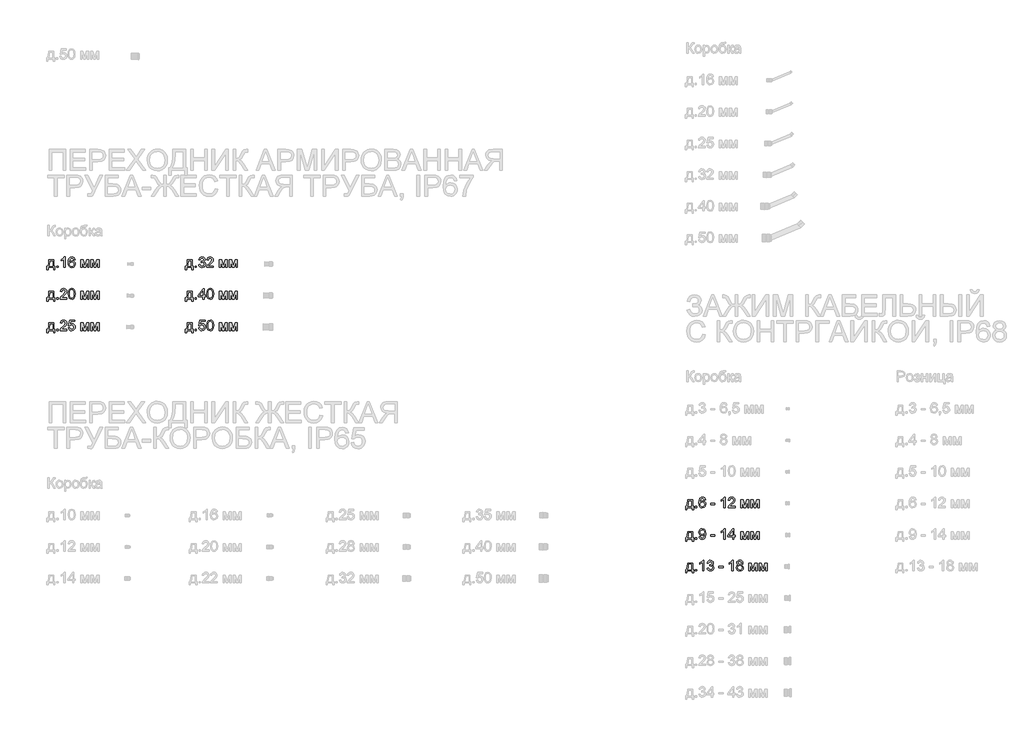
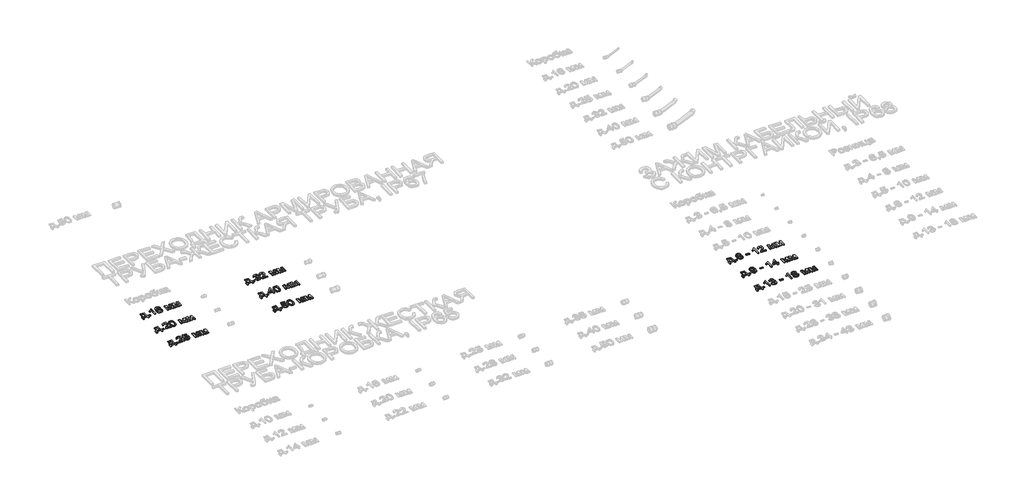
# One storey, part 57 of 98: 9 proxies.
"""IFC4 building model written with IfcOpenShell, lengths in millimetres."""

from ifc_helpers import new_model, si_unit, origin, origin_with_axes, place, context, project, spatial, polyline, outline, extrude, element, save

model = new_model("IFC4")

# Units and contexts
model_context = context("Model", 3, world=origin())
ifc_project = project(units=[si_unit("LENGTHUNIT", "METRE", prefix="MILLI")], contexts=[model_context])

# Site, building, storey
site = spatial("IfcSite", under=ifc_project)
building = spatial("IfcBuilding", under=site)
storey = spatial("IfcBuildingStorey", under=building, Name="Этаж 01", Elevation=0.0)

# Proxies
placement = place(None, origin())
element("IfcBuildingElementProxy", 1, Name="100", ObjectType="100", at=placement, inside=storey, context=model_context, shape_type="SweptSolid", body=[
    extrude(outline(polyline([(8359.1567674, -26065.363208), (8406.2456628, -26065.363208), (8406.2456628, -26126.578772), (8415.6634419, -26126.578772), (8415.6634419, -26159.5409987), (8403.1064031, -26159.5409987), (8403.1064031, -26139.1358107), (8351.3086182, -26139.1358107), (8351.3086182, -26159.5409987), (8338.7515794, -26159.5409987), (8338.7515794, -26126.578772), (8346.5997287, -26126.578772), (8356.2995506, -26102.6296541), (8359.1567674, -26065.363208)]), holes=[polyline([(8370.1441763, -26077.9202467), (8367.2011204, -26106.5292032), (8360.7263973, -26126.578772), (8393.688624, -26126.578772), (8393.688624, -26077.9202467), (8370.1441763, -26077.9202467)])]), origin_with_axes(), (0.0, 0.0, 1.0), 10.0),
    extrude(outline(polyline([(8432.9293702, -26139.1358107), (8432.9293702, -26126.578772), (8445.486409, -26126.578772), (8445.486409, -26139.1358107), (8432.9293702, -26139.1358107)])), origin_with_axes(), (0.0, 0.0, 1.0), 10.0),
    extrude(outline(polyline([(8512.9804923, -26139.1358107), (8500.4234536, -26139.1358107), (8500.4234536, -26060.8505222), (8488.5286024, -26069.3240708), (8475.309376, -26075.6639038), (8475.309376, -26063.7935781), (8493.7157385, -26052.0458797), (8504.8870884, -26038.6795006), (8512.9804923, -26038.6795006), (8512.9804923, -26139.1358107)])), origin_with_axes(), (0.0, 0.0, 1.0), 10.0),
    extrude(outline(polyline([(8607.1582831, -26065.363208), (8594.6012443, -26066.9328378), (8589.8433039, -26056.4604637), (8577.2617396, -26051.2365394), (8565.9309742, -26054.2776972), (8557.3593237, -26065.6943018), (8553.7908683, -26088.0737898), (8564.8641164, -26078.0551368), (8578.5861148, -26074.780987), (8590.1866604, -26077.0189359), (8599.9232705, -26083.7327823), (8606.5267523, -26093.9905586), (8608.7279129, -26106.860297), (8604.5831091, -26124.187539), (8593.1787673, -26136.4502722), (8576.7221794, -26140.7054406), (8562.4759491, -26137.885012), (8551.1298552, -26129.4237261), (8543.707836, -26114.4877171), (8541.2338296, -26092.2431191), (8543.9806818, -26067.2332748), (8552.2212385, -26050.1328934), (8563.4722962, -26041.5428488), (8578.0465546, -26038.6795006), (8589.0646203, -26040.4514655), (8597.8876568, -26045.7673604), (8604.0680743, -26054.2102522), (8607.1582831, -26065.363208)]), holes=[polyline([(8553.7908683, -26106.6640933), (8556.6971361, -26117.5411376), (8564.422658, -26125.4383378), (8575.7411607, -26128.1484018), (8584.0277027, -26126.7443189), (8590.5422797, -26122.53207), (8594.7637255, -26115.9101941), (8596.1708742, -26107.27723), (8594.7821196, -26098.990688), (8590.6158561, -26092.6723147), (8583.9909145, -26088.6715981), (8575.2261259, -26087.3380258), (8560.0325995, -26092.6723147), (8555.3513011, -26098.8374039), (8553.7908683, -26106.6640933)])]), origin_with_axes(), (0.0, 0.0, 1.0), 10.0),
    extrude(outline(polyline([(8662.0953277, -26065.363208), (8683.7022636, -26065.363208), (8700.3550552, -26124.4205309), (8718.3076966, -26065.363208), (8739.0071902, -26065.363208), (8739.0071902, -26139.1358107), (8726.4501514, -26139.1358107), (8726.4501514, -26079.7351313), (8708.3994082, -26139.1358107), (8691.9182948, -26139.1358107), (8674.6523665, -26076.8901772), (8674.6523665, -26139.1358107), (8662.0953277, -26139.1358107), (8662.0953277, -26065.363208)])), origin_with_axes(), (0.0, 0.0, 1.0), 10.0),
    extrude(outline(polyline([(8757.8427483, -26065.363208), (8779.4496842, -26065.363208), (8796.1024758, -26124.4205309), (8814.0551172, -26065.363208), (8834.7546108, -26065.363208), (8834.7546108, -26139.1358107), (8822.197572, -26139.1358107), (8822.197572, -26079.7351313), (8804.1468288, -26139.1358107), (8787.6657154, -26139.1358107), (8770.3997871, -26076.8901772), (8770.3997871, -26139.1358107), (8757.8427483, -26139.1358107), (8757.8427483, -26065.363208)])), origin_with_axes(), (0.0, 0.0, 1.0), 10.0),
])
element("IfcBuildingElementProxy", 2, Name="100", ObjectType="100", at=placement, inside=storey, context=model_context, shape_type="SweptSolid", body=[
    extrude(outline(polyline([(8359.1567674, -26365.363208), (8406.2456628, -26365.363208), (8406.2456628, -26426.578772), (8415.6634419, -26426.578772), (8415.6634419, -26459.5409987), (8403.1064031, -26459.5409987), (8403.1064031, -26439.1358107), (8351.3086182, -26439.1358107), (8351.3086182, -26459.5409987), (8338.7515794, -26459.5409987), (8338.7515794, -26426.578772), (8346.5997287, -26426.578772), (8356.2995506, -26402.6296541), (8359.1567674, -26365.363208)]), holes=[polyline([(8370.1441763, -26377.9202467), (8367.2011204, -26406.5292032), (8360.7263973, -26426.578772), (8393.688624, -26426.578772), (8393.688624, -26377.9202467), (8370.1441763, -26377.9202467)])]), origin_with_axes(), (0.0, 0.0, 1.0), 10.0),
    extrude(outline(polyline([(8432.9293702, -26439.1358107), (8432.9293702, -26426.578772), (8445.486409, -26426.578772), (8445.486409, -26439.1358107), (8432.9293702, -26439.1358107)])), origin_with_axes(), (0.0, 0.0, 1.0), 10.0),
    extrude(outline(polyline([(8530.2464206, -26426.578772), (8530.2464206, -26439.1358107), (8464.3219671, -26439.1358107), (8465.6708678, -26430.4783211), (8473.2982878, -26417.1487302), (8489.0191117, -26402.5928659), (8510.699624, -26381.6726431), (8516.119752, -26367.4478726), (8511.0061923, -26355.9331662), (8497.6520759, -26351.2365394), (8483.7338737, -26355.8228016), (8478.4486357, -26368.5024677), (8465.891597, -26366.9328378), (8468.9358205, -26354.7866006), (8475.5178425, -26345.9145132), (8485.2943065, -26340.4882537), (8497.921856, -26338.6795006), (8510.641376, -26340.6905888), (8520.3994459, -26346.7238536), (8526.6074546, -26355.7369624), (8528.6767908, -26366.6875832), (8526.4449734, -26378.5946971), (8519.0260198, -26390.9064812), (8501.0365902, -26408.1110958), (8486.5910905, -26420.189888), (8480.9257078, -26426.578772), (8530.2464206, -26426.578772)])), origin_with_axes(), (0.0, 0.0, 1.0), 10.0),
    extrude(outline(polyline([(8542.8034594, -26389.7169961), (8546.4945421, -26360.813734), (8557.4574256, -26344.1486796), (8575.7656862, -26338.6795006), (8590.4319151, -26341.9168621), (8600.5609327, -26351.2488021), (8606.4470446, -26366.1112347), (8608.7279129, -26389.7169961), (8605.0736185, -26418.4976308), (8594.1475232, -26435.1994734), (8585.9161636, -26439.3289488), (8575.7656862, -26440.7054406), (8562.7181381, -26438.3142076), (8552.8098497, -26431.1405087), (8545.305057, -26414.1504919), (8542.8034594, -26389.7169961)]), holes=[polyline([(8555.3604982, -26389.6924706), (8556.8320262, -26409.444668), (8561.2466101, -26420.876601), (8567.8194351, -26426.3304516), (8575.7656862, -26428.1484018), (8583.7119373, -26426.3243203), (8590.2847623, -26420.8520756), (8594.6993462, -26409.4140112), (8596.1708742, -26389.6924706), (8594.7483971, -26370.3847972), (8590.480966, -26358.8639594), (8583.9204037, -26353.1433944), (8575.6185334, -26351.2365394), (8567.7581214, -26352.9165338), (8561.4428138, -26357.9565171), (8556.8810771, -26370.1947248), (8555.3604982, -26389.6924706)])]), origin_with_axes(), (0.0, 0.0, 1.0), 10.0),
    extrude(outline(polyline([(8662.0953277, -26365.363208), (8683.7022636, -26365.363208), (8700.3550552, -26424.4205309), (8718.3076966, -26365.363208), (8739.0071902, -26365.363208), (8739.0071902, -26439.1358107), (8726.4501514, -26439.1358107), (8726.4501514, -26379.7351313), (8708.3994082, -26439.1358107), (8691.9182948, -26439.1358107), (8674.6523665, -26376.8901772), (8674.6523665, -26439.1358107), (8662.0953277, -26439.1358107), (8662.0953277, -26365.363208)])), origin_with_axes(), (0.0, 0.0, 1.0), 10.0),
    extrude(outline(polyline([(8757.8427483, -26365.363208), (8779.4496842, -26365.363208), (8796.1024758, -26424.4205309), (8814.0551172, -26365.363208), (8834.7546108, -26365.363208), (8834.7546108, -26439.1358107), (8822.197572, -26439.1358107), (8822.197572, -26379.7351313), (8804.1468288, -26439.1358107), (8787.6657154, -26439.1358107), (8770.3997871, -26376.8901772), (8770.3997871, -26439.1358107), (8757.8427483, -26439.1358107), (8757.8427483, -26365.363208)])), origin_with_axes(), (0.0, 0.0, 1.0), 10.0),
])
element("IfcBuildingElementProxy", 3, Name="100", ObjectType="100", at=placement, inside=storey, context=model_context, shape_type="SweptSolid", body=[
    extrude(outline(polyline([(8359.1567674, -26665.363208), (8406.2456628, -26665.363208), (8406.2456628, -26726.578772), (8415.6634419, -26726.578772), (8415.6634419, -26759.5409987), (8403.1064031, -26759.5409987), (8403.1064031, -26739.1358107), (8351.3086182, -26739.1358107), (8351.3086182, -26759.5409987), (8338.7515794, -26759.5409987), (8338.7515794, -26726.578772), (8346.5997287, -26726.578772), (8356.2995506, -26702.6296541), (8359.1567674, -26665.363208)]), holes=[polyline([(8370.1441763, -26677.9202467), (8367.2011204, -26706.5292032), (8360.7263973, -26726.578772), (8393.688624, -26726.578772), (8393.688624, -26677.9202467), (8370.1441763, -26677.9202467)])]), origin_with_axes(), (0.0, 0.0, 1.0), 10.0),
    extrude(outline(polyline([(8432.9293702, -26739.1358107), (8432.9293702, -26726.578772), (8445.486409, -26726.578772), (8445.486409, -26739.1358107), (8432.9293702, -26739.1358107)])), origin_with_axes(), (0.0, 0.0, 1.0), 10.0),
    extrude(outline(polyline([(8530.2464206, -26726.578772), (8530.2464206, -26739.1358107), (8464.3219671, -26739.1358107), (8465.6708678, -26730.4783211), (8473.2982878, -26717.1487302), (8489.0191117, -26702.5928659), (8510.699624, -26681.6726431), (8516.119752, -26667.4478726), (8511.0061923, -26655.9331662), (8497.6520759, -26651.2365394), (8483.7338737, -26655.8228016), (8478.4486357, -26668.5024677), (8465.891597, -26666.9328378), (8468.9358205, -26654.7866006), (8475.5178425, -26645.9145132), (8485.2943065, -26640.4882537), (8497.921856, -26638.6795006), (8510.641376, -26640.6905888), (8520.3994459, -26646.7238536), (8526.6074546, -26655.7369624), (8528.6767908, -26666.6875832), (8526.4449734, -26678.5946971), (8519.0260198, -26690.9064812), (8501.0365902, -26708.1110958), (8486.5910905, -26720.189888), (8480.9257078, -26726.578772), (8530.2464206, -26726.578772)])), origin_with_axes(), (0.0, 0.0, 1.0), 10.0),
    extrude(outline(polyline([(8542.8034594, -26712.4521034), (8555.3604982, -26710.8824735), (8561.6880685, -26723.819657), (8574.809193, -26728.1484018), (8583.8100391, -26726.6431513), (8590.5545424, -26722.1273998), (8594.7667912, -26715.1223135), (8596.1708742, -26706.1490585), (8590.9101616, -26691.237575), (8584.3036142, -26687.1356907), (8575.0053967, -26685.768396), (8563.9811996, -26687.9511625), (8556.930128, -26693.6165452), (8544.3730893, -26692.0469154), (8555.3604982, -26640.2491304), (8604.0190234, -26640.2491304), (8604.0190234, -26652.8061692), (8565.5140412, -26652.8061692), (8560.1429641, -26680.4708952), (8569.1131534, -26675.0262417), (8578.5125384, -26673.2113572), (8590.2449084, -26675.4615687), (8599.9845842, -26682.2122034), (8606.5420808, -26692.5006365), (8608.7279129, -26705.3642436), (8606.7597443, -26717.9212823), (8600.8552383, -26728.6634366), (8589.5489983, -26737.6949396), (8574.7601421, -26740.7054406), (8562.4268982, -26738.7709944), (8552.6013832, -26732.967656), (8545.866077, -26723.9698755), (8542.8034594, -26712.4521034)])), origin_with_axes(), (0.0, 0.0, 1.0), 10.0),
    extrude(outline(polyline([(8662.0953277, -26665.363208), (8683.7022636, -26665.363208), (8700.3550552, -26724.4205309), (8718.3076966, -26665.363208), (8739.0071902, -26665.363208), (8739.0071902, -26739.1358107), (8726.4501514, -26739.1358107), (8726.4501514, -26679.7351313), (8708.3994082, -26739.1358107), (8691.9182948, -26739.1358107), (8674.6523665, -26676.8901772), (8674.6523665, -26739.1358107), (8662.0953277, -26739.1358107), (8662.0953277, -26665.363208)])), origin_with_axes(), (0.0, 0.0, 1.0), 10.0),
    extrude(outline(polyline([(8757.8427483, -26665.363208), (8779.4496842, -26665.363208), (8796.1024758, -26724.4205309), (8814.0551172, -26665.363208), (8834.7546108, -26665.363208), (8834.7546108, -26739.1358107), (8822.197572, -26739.1358107), (8822.197572, -26679.7351313), (8804.1468288, -26739.1358107), (8787.6657154, -26739.1358107), (8770.3997871, -26676.8901772), (8770.3997871, -26739.1358107), (8757.8427483, -26739.1358107), (8757.8427483, -26665.363208)])), origin_with_axes(), (0.0, 0.0, 1.0), 10.0),
])
element("IfcBuildingElementProxy", 4, Name="100", ObjectType="100", at=placement, inside=storey, context=model_context, shape_type="SweptSolid", body=[
    extrude(outline(polyline([(9674.8117307, -26065.363208), (9721.9006261, -26065.363208), (9721.9006261, -26126.578772), (9731.3184052, -26126.578772), (9731.3184052, -26159.5409987), (9718.7613664, -26159.5409987), (9718.7613664, -26139.1358107), (9666.9635815, -26139.1358107), (9666.9635815, -26159.5409987), (9654.4065427, -26159.5409987), (9654.4065427, -26126.578772), (9662.2546919, -26126.578772), (9671.9545139, -26102.6296541), (9674.8117307, -26065.363208)]), holes=[polyline([(9685.7991396, -26077.9202467), (9682.8560837, -26106.5292032), (9676.3813606, -26126.578772), (9709.3435873, -26126.578772), (9709.3435873, -26077.9202467), (9685.7991396, -26077.9202467)])]), origin_with_axes(), (0.0, 0.0, 1.0), 10.0),
    extrude(outline(polyline([(9748.5843335, -26139.1358107), (9748.5843335, -26126.578772), (9761.1413722, -26126.578772), (9761.1413722, -26139.1358107), (9748.5843335, -26139.1358107)])), origin_with_axes(), (0.0, 0.0, 1.0), 10.0),
    extrude(outline(polyline([(9781.5465602, -26112.4521034), (9794.103599, -26110.8824735), (9801.0320433, -26124.1016999), (9813.9937522, -26128.1484018), (9822.6021909, -26126.7565816), (9829.2485923, -26122.581121), (9834.913975, -26108.7978089), (9829.2976432, -26095.8115744), (9815.0238218, -26090.6734892), (9806.2191794, -26092.0469154), (9807.617131, -26079.4898766), (9809.6282192, -26079.6370294), (9823.8775152, -26076.0317858), (9828.6231929, -26071.4577864), (9830.2050855, -26064.946275), (9825.6188233, -26055.1238258), (9813.7975485, -26051.2365394), (9801.8291209, -26055.160614), (9795.6732289, -26066.9328378), (9783.1161901, -26065.363208), (9786.8134041, -26054.0876248), (9793.3923605, -26045.6692585), (9802.3932066, -26040.4269401), (9813.3560901, -26038.6795006), (9828.5005656, -26042.1253286), (9839.095567, -26051.5431077), (9842.7621242, -26064.2105111), (9839.279508, -26075.7865312), (9828.9788122, -26084.1006643), (9842.6640224, -26092.6845775), (9847.4710138, -26109.0185381), (9845.0675181, -26121.2567458), (9837.857031, -26131.4838652), (9826.9738553, -26138.4000467), (9813.5522938, -26140.7054406), (9801.412188, -26138.7372719), (9791.528425, -26132.8327659), (9784.6551631, -26123.8012629), (9781.5465602, -26112.4521034)])), origin_with_axes(), (0.0, 0.0, 1.0), 10.0),
    extrude(outline(polyline([(9922.8132464, -26126.578772), (9922.8132464, -26139.1358107), (9856.8887929, -26139.1358107), (9858.2376935, -26130.4783211), (9865.8651135, -26117.1487302), (9881.5859375, -26102.5928659), (9903.2664497, -26081.6726431), (9908.6865778, -26067.4478726), (9903.573018, -26055.9331662), (9890.2189016, -26051.2365394), (9876.3006995, -26055.8228016), (9871.0154615, -26068.5024677), (9858.4584227, -26066.9328378), (9861.5026462, -26054.7866006), (9868.0846682, -26045.9145132), (9877.8611323, -26040.4882537), (9890.4886817, -26038.6795006), (9903.2082017, -26040.6905888), (9912.9662717, -26046.7238536), (9919.1742803, -26055.7369624), (9921.2436165, -26066.6875832), (9919.0117991, -26078.5946971), (9911.5928455, -26090.9064812), (9893.603416, -26108.1110958), (9879.1579163, -26120.189888), (9873.4925336, -26126.578772), (9922.8132464, -26126.578772)])), origin_with_axes(), (0.0, 0.0, 1.0), 10.0),
    extrude(outline(polyline([(9977.750291, -26065.363208), (9999.3572269, -26065.363208), (10016.0100185, -26124.4205309), (10033.9626599, -26065.363208), (10054.6621535, -26065.363208), (10054.6621535, -26139.1358107), (10042.1051147, -26139.1358107), (10042.1051147, -26079.7351313), (10024.0543715, -26139.1358107), (10007.5732581, -26139.1358107), (9990.3073298, -26076.8901772), (9990.3073298, -26139.1358107), (9977.750291, -26139.1358107), (9977.750291, -26065.363208)])), origin_with_axes(), (0.0, 0.0, 1.0), 10.0),
    extrude(outline(polyline([(10073.4977116, -26065.363208), (10095.1046475, -26065.363208), (10111.7574391, -26124.4205309), (10129.7100805, -26065.363208), (10150.4095741, -26065.363208), (10150.4095741, -26139.1358107), (10137.8525353, -26139.1358107), (10137.8525353, -26079.7351313), (10119.8017921, -26139.1358107), (10103.3206787, -26139.1358107), (10086.0547504, -26076.8901772), (10086.0547504, -26139.1358107), (10073.4977116, -26139.1358107), (10073.4977116, -26065.363208)])), origin_with_axes(), (0.0, 0.0, 1.0), 10.0),
])
element("IfcBuildingElementProxy", 5, Name="100", ObjectType="100", at=placement, inside=storey, context=model_context, shape_type="SweptSolid", body=[
    extrude(outline(polyline([(9674.8117307, -26365.363208), (9721.9006261, -26365.363208), (9721.9006261, -26426.578772), (9731.3184052, -26426.578772), (9731.3184052, -26459.5409987), (9718.7613664, -26459.5409987), (9718.7613664, -26439.1358107), (9666.9635815, -26439.1358107), (9666.9635815, -26459.5409987), (9654.4065427, -26459.5409987), (9654.4065427, -26426.578772), (9662.2546919, -26426.578772), (9671.9545139, -26402.6296541), (9674.8117307, -26365.363208)]), holes=[polyline([(9685.7991396, -26377.9202467), (9682.8560837, -26406.5292032), (9676.3813606, -26426.578772), (9709.3435873, -26426.578772), (9709.3435873, -26377.9202467), (9685.7991396, -26377.9202467)])]), origin_with_axes(), (0.0, 0.0, 1.0), 10.0),
    extrude(outline(polyline([(9748.5843335, -26439.1358107), (9748.5843335, -26426.578772), (9761.1413722, -26426.578772), (9761.1413722, -26439.1358107), (9748.5843335, -26439.1358107)])), origin_with_axes(), (0.0, 0.0, 1.0), 10.0),
    extrude(outline(polyline([(9822.3569362, -26439.1358107), (9822.3569362, -26415.591363), (9776.8376707, -26415.591363), (9776.8376707, -26403.0343243), (9825.4961959, -26340.2491304), (9834.913975, -26340.2491304), (9834.913975, -26403.0343243), (9847.4710138, -26403.0343243), (9847.4710138, -26415.591363), (9834.913975, -26415.591363), (9834.913975, -26439.1358107), (9822.3569362, -26439.1358107)]), holes=[polyline([(9822.3569362, -26403.0343243), (9822.3569362, -26364.2350365), (9792.2887145, -26403.0343243), (9822.3569362, -26403.0343243)])]), origin_with_axes(), (0.0, 0.0, 1.0), 10.0),
    extrude(outline(polyline([(9858.4584227, -26389.7169961), (9862.1495054, -26360.813734), (9873.1123888, -26344.1486796), (9891.4206495, -26338.6795006), (9906.0868783, -26341.9168621), (9916.2158959, -26351.2488021), (9922.1020079, -26366.1112347), (9924.3828762, -26389.7169961), (9920.7285818, -26418.4976308), (9909.8024865, -26435.1994734), (9901.5711269, -26439.3289488), (9891.4206495, -26440.7054406), (9878.3731014, -26438.3142076), (9868.464813, -26431.1405087), (9860.9600203, -26414.1504919), (9858.4584227, -26389.7169961)]), holes=[polyline([(9871.0154615, -26389.6924706), (9872.4869895, -26409.444668), (9876.9015734, -26420.876601), (9883.4743984, -26426.3304516), (9891.4206495, -26428.1484018), (9899.3669006, -26426.3243203), (9905.9397255, -26420.8520756), (9910.3543095, -26409.4140112), (9911.8258375, -26389.6924706), (9910.4033604, -26370.3847972), (9906.1359293, -26358.8639594), (9899.575367, -26353.1433944), (9891.2734967, -26351.2365394), (9883.4130847, -26352.9165338), (9877.0977771, -26357.9565171), (9872.5360404, -26370.1947248), (9871.0154615, -26389.6924706)])]), origin_with_axes(), (0.0, 0.0, 1.0), 10.0),
    extrude(outline(polyline([(9977.750291, -26365.363208), (9999.3572269, -26365.363208), (10016.0100185, -26424.4205309), (10033.9626599, -26365.363208), (10054.6621535, -26365.363208), (10054.6621535, -26439.1358107), (10042.1051147, -26439.1358107), (10042.1051147, -26379.7351313), (10024.0543715, -26439.1358107), (10007.5732581, -26439.1358107), (9990.3073298, -26376.8901772), (9990.3073298, -26439.1358107), (9977.750291, -26439.1358107), (9977.750291, -26365.363208)])), origin_with_axes(), (0.0, 0.0, 1.0), 10.0),
    extrude(outline(polyline([(10073.4977116, -26365.363208), (10095.1046475, -26365.363208), (10111.7574391, -26424.4205309), (10129.7100805, -26365.363208), (10150.4095741, -26365.363208), (10150.4095741, -26439.1358107), (10137.8525353, -26439.1358107), (10137.8525353, -26379.7351313), (10119.8017921, -26439.1358107), (10103.3206787, -26439.1358107), (10086.0547504, -26376.8901772), (10086.0547504, -26439.1358107), (10073.4977116, -26439.1358107), (10073.4977116, -26365.363208)])), origin_with_axes(), (0.0, 0.0, 1.0), 10.0),
])
element("IfcBuildingElementProxy", 6, Name="100", ObjectType="100", at=placement, inside=storey, context=model_context, shape_type="SweptSolid", body=[
    extrude(outline(polyline([(9674.8117307, -26665.363208), (9721.9006261, -26665.363208), (9721.9006261, -26726.578772), (9731.3184052, -26726.578772), (9731.3184052, -26759.5409987), (9718.7613664, -26759.5409987), (9718.7613664, -26739.1358107), (9666.9635815, -26739.1358107), (9666.9635815, -26759.5409987), (9654.4065427, -26759.5409987), (9654.4065427, -26726.578772), (9662.2546919, -26726.578772), (9671.9545139, -26702.6296541), (9674.8117307, -26665.363208)]), holes=[polyline([(9685.7991396, -26677.9202467), (9682.8560837, -26706.5292032), (9676.3813606, -26726.578772), (9709.3435873, -26726.578772), (9709.3435873, -26677.9202467), (9685.7991396, -26677.9202467)])]), origin_with_axes(), (0.0, 0.0, 1.0), 10.0),
    extrude(outline(polyline([(9748.5843335, -26739.1358107), (9748.5843335, -26726.578772), (9761.1413722, -26726.578772), (9761.1413722, -26739.1358107), (9748.5843335, -26739.1358107)])), origin_with_axes(), (0.0, 0.0, 1.0), 10.0),
    extrude(outline(polyline([(9781.5465602, -26712.4521034), (9794.103599, -26710.8824735), (9800.4311693, -26723.819657), (9813.5522938, -26728.1484018), (9822.55314, -26726.6431513), (9829.2976432, -26722.1273998), (9833.5098921, -26715.1223135), (9834.913975, -26706.1490585), (9829.6532625, -26691.237575), (9823.046715, -26687.1356907), (9813.7484976, -26685.768396), (9802.7243004, -26687.9511625), (9795.6732289, -26693.6165452), (9783.1161901, -26692.0469154), (9794.103599, -26640.2491304), (9842.7621242, -26640.2491304), (9842.7621242, -26652.8061692), (9804.2571421, -26652.8061692), (9798.8860649, -26680.4708952), (9807.8562543, -26675.0262417), (9817.2556392, -26673.2113572), (9828.9880092, -26675.4615687), (9838.727685, -26682.2122034), (9845.2851816, -26692.5006365), (9847.4710138, -26705.3642436), (9845.5028451, -26717.9212823), (9839.5983391, -26728.6634366), (9828.2920991, -26737.6949396), (9813.5032429, -26740.7054406), (9801.169999, -26738.7709944), (9791.344484, -26732.967656), (9784.6091779, -26723.9698755), (9781.5465602, -26712.4521034)])), origin_with_axes(), (0.0, 0.0, 1.0), 10.0),
    extrude(outline(polyline([(9858.4584227, -26689.7169961), (9862.1495054, -26660.813734), (9873.1123888, -26644.1486796), (9891.4206495, -26638.6795006), (9906.0868783, -26641.9168621), (9916.2158959, -26651.2488021), (9922.1020079, -26666.1112347), (9924.3828762, -26689.7169961), (9920.7285818, -26718.4976308), (9909.8024865, -26735.1994734), (9901.5711269, -26739.3289488), (9891.4206495, -26740.7054406), (9878.3731014, -26738.3142076), (9868.464813, -26731.1405087), (9860.9600203, -26714.1504919), (9858.4584227, -26689.7169961)]), holes=[polyline([(9871.0154615, -26689.6924706), (9872.4869895, -26709.444668), (9876.9015734, -26720.876601), (9883.4743984, -26726.3304516), (9891.4206495, -26728.1484018), (9899.3669006, -26726.3243203), (9905.9397255, -26720.8520756), (9910.3543095, -26709.4140112), (9911.8258375, -26689.6924706), (9910.4033604, -26670.3847972), (9906.1359293, -26658.8639594), (9899.575367, -26653.1433944), (9891.2734967, -26651.2365394), (9883.4130847, -26652.9165338), (9877.0977771, -26657.9565171), (9872.5360404, -26670.1947248), (9871.0154615, -26689.6924706)])]), origin_with_axes(), (0.0, 0.0, 1.0), 10.0),
    extrude(outline(polyline([(9977.750291, -26665.363208), (9999.3572269, -26665.363208), (10016.0100185, -26724.4205309), (10033.9626599, -26665.363208), (10054.6621535, -26665.363208), (10054.6621535, -26739.1358107), (10042.1051147, -26739.1358107), (10042.1051147, -26679.7351313), (10024.0543715, -26739.1358107), (10007.5732581, -26739.1358107), (9990.3073298, -26676.8901772), (9990.3073298, -26739.1358107), (9977.750291, -26739.1358107), (9977.750291, -26665.363208)])), origin_with_axes(), (0.0, 0.0, 1.0), 10.0),
    extrude(outline(polyline([(10073.4977116, -26665.363208), (10095.1046475, -26665.363208), (10111.7574391, -26724.4205309), (10129.7100805, -26665.363208), (10150.4095741, -26665.363208), (10150.4095741, -26739.1358107), (10137.8525353, -26739.1358107), (10137.8525353, -26679.7351313), (10119.8017921, -26739.1358107), (10103.3206787, -26739.1358107), (10086.0547504, -26676.8901772), (10086.0547504, -26739.1358107), (10073.4977116, -26739.1358107), (10073.4977116, -26665.363208)])), origin_with_axes(), (0.0, 0.0, 1.0), 10.0),
])
element("IfcBuildingElementProxy", 7, Name="100", ObjectType="100", at=placement, inside=storey, context=model_context, shape_type="SweptSolid", body=[
    extrude(outline(polyline([(14431.7338321, -28649.6891994), (14478.8227275, -28649.6891994), (14478.8227275, -28710.9047634), (14488.2405066, -28710.9047634), (14488.2405066, -28743.8669901), (14475.6834678, -28743.8669901), (14475.6834678, -28723.4618021), (14423.8856829, -28723.4618021), (14423.8856829, -28743.8669901), (14411.3286441, -28743.8669901), (14411.3286441, -28710.9047634), (14419.1767934, -28710.9047634), (14428.8766153, -28686.9556455), (14431.7338321, -28649.6891994)]), holes=[polyline([(14442.721241, -28662.2462382), (14439.7781851, -28690.8551946), (14433.303462, -28710.9047634), (14466.2656887, -28710.9047634), (14466.2656887, -28662.2462382), (14442.721241, -28662.2462382)])]), origin_with_axes(), (0.0, 0.0, 1.0), 10.0),
    extrude(outline(polyline([(14505.5064349, -28723.4618021), (14505.5064349, -28710.9047634), (14518.0634737, -28710.9047634), (14518.0634737, -28723.4618021), (14505.5064349, -28723.4618021)])), origin_with_axes(), (0.0, 0.0, 1.0), 10.0),
    extrude(outline(polyline([(14540.0382915, -28698.3477246), (14552.5953303, -28696.7780948), (14558.2361875, -28708.7587851), (14568.9292909, -28712.4743932), (14579.0950967, -28710.0831603), (14585.9867527, -28703.6942763), (14590.0947683, -28692.7804438), (14591.9096528, -28678.2123167), (14591.8360764, -28675.7597701), (14581.792898, -28685.275651), (14568.0218486, -28688.9299455), (14556.5715215, -28686.6981281), (14547.0403121, -28680.0026758), (14540.6115743, -28669.6590604), (14538.4686617, -28656.4827536), (14540.7158075, -28642.8711197), (14547.4572451, -28632.2025419), (14557.583197, -28625.3047545), (14569.9838859, -28623.005492), (14587.8752136, -28628.2539418), (14600.1869977, -28643.2144763), (14604.3931152, -28671.3206607), (14600.1992604, -28701.8180781), (14594.9845332, -28711.80914), (14587.7280608, -28719.0962691), (14578.7425431, -28723.5476413), (14568.3406797, -28725.031432), (14557.6046568, -28723.2809268), (14549.0391377, -28718.0294114), (14543.0487925, -28709.6079793), (14540.0382915, -28698.3477246)]), holes=[polyline([(14591.8360764, -28656.188448), (14590.4810444, -28647.6781111), (14586.4159484, -28641.1298116), (14580.1067721, -28636.954351), (14572.0194996, -28635.5625308), (14563.6317901, -28637.0616499), (14556.9118123, -28641.5590073), (14552.4972284, -28648.4414663), (14551.0257004, -28657.0958902), (14552.4175206, -28664.8551346), (14556.5929813, -28671.0140924), (14563.1474122, -28675.0332032), (14571.6761431, -28676.3729068), (14586.158431, -28671.0140924), (14590.4166651, -28664.6282741), (14591.8360764, -28656.188448)])]), origin_with_axes(), (0.0, 0.0, 1.0), 10.0),
    extrude(outline(polyline([(14651.4820106, -28693.6388351), (14651.4820106, -28681.0817963), (14690.7227567, -28681.0817963), (14690.7227567, -28693.6388351), (14651.4820106, -28693.6388351)])), origin_with_axes(), (0.0, 0.0, 1.0), 10.0),
    extrude(outline(polyline([(14788.0398072, -28723.4618021), (14775.4827684, -28723.4618021), (14775.4827684, -28645.1765136), (14763.5879172, -28653.6500622), (14750.3686909, -28659.9898952), (14750.3686909, -28648.1195695), (14768.7750534, -28636.3718712), (14779.9464033, -28623.005492), (14788.0398072, -28623.005492), (14788.0398072, -28723.4618021)])), origin_with_axes(), (0.0, 0.0, 1.0), 10.0),
    extrude(outline(polyline([(14858.6731503, -28723.4618021), (14858.6731503, -28699.9173545), (14813.1538847, -28699.9173545), (14813.1538847, -28687.3603157), (14861.81241, -28624.5751218), (14871.230189, -28624.5751218), (14871.230189, -28687.3603157), (14883.7872278, -28687.3603157), (14883.7872278, -28699.9173545), (14871.230189, -28699.9173545), (14871.230189, -28723.4618021), (14858.6731503, -28723.4618021)]), holes=[polyline([(14858.6731503, -28687.3603157), (14858.6731503, -28648.5610279), (14828.6049285, -28687.3603157), (14858.6731503, -28687.3603157)])]), origin_with_axes(), (0.0, 0.0, 1.0), 10.0),
    extrude(outline(polyline([(14937.1546426, -28649.6891994), (14958.7615784, -28649.6891994), (14975.4143701, -28708.7465223), (14993.3670114, -28649.6891994), (15014.066505, -28649.6891994), (15014.066505, -28723.4618021), (15001.5094663, -28723.4618021), (15001.5094663, -28664.0611227), (14983.458723, -28723.4618021), (14966.9776096, -28723.4618021), (14949.7116813, -28661.2161686), (14949.7116813, -28723.4618021), (14937.1546426, -28723.4618021), (14937.1546426, -28649.6891994)])), origin_with_axes(), (0.0, 0.0, 1.0), 10.0),
    extrude(outline(polyline([(15032.9020632, -28649.6891994), (15054.508999, -28649.6891994), (15071.1617907, -28708.7465223), (15089.114432, -28649.6891994), (15109.8139256, -28649.6891994), (15109.8139256, -28723.4618021), (15097.2568869, -28723.4618021), (15097.2568869, -28664.0611227), (15079.2061436, -28723.4618021), (15062.7250303, -28723.4618021), (15045.4591019, -28661.2161686), (15045.4591019, -28723.4618021), (15032.9020632, -28723.4618021), (15032.9020632, -28649.6891994)])), origin_with_axes(), (0.0, 0.0, 1.0), 10.0),
])
element("IfcBuildingElementProxy", 8, Name="100", ObjectType="100", at=placement, inside=storey, context=model_context, shape_type="SweptSolid", body=[
    extrude(outline(polyline([(14431.7338321, -28949.6891994), (14478.8227275, -28949.6891994), (14478.8227275, -29010.9047634), (14488.2405066, -29010.9047634), (14488.2405066, -29043.8669901), (14475.6834678, -29043.8669901), (14475.6834678, -29023.4618021), (14423.8856829, -29023.4618021), (14423.8856829, -29043.8669901), (14411.3286441, -29043.8669901), (14411.3286441, -29010.9047634), (14419.1767934, -29010.9047634), (14428.8766153, -28986.9556455), (14431.7338321, -28949.6891994)]), holes=[polyline([(14442.721241, -28962.2462382), (14439.7781851, -28990.8551946), (14433.303462, -29010.9047634), (14466.2656887, -29010.9047634), (14466.2656887, -28962.2462382), (14442.721241, -28962.2462382)])]), origin_with_axes(), (0.0, 0.0, 1.0), 10.0),
    extrude(outline(polyline([(14505.5064349, -29023.4618021), (14505.5064349, -29010.9047634), (14518.0634737, -29010.9047634), (14518.0634737, -29023.4618021), (14505.5064349, -29023.4618021)])), origin_with_axes(), (0.0, 0.0, 1.0), 10.0),
    extrude(outline(polyline([(14585.557557, -29023.4618021), (14573.0005183, -29023.4618021), (14573.0005183, -28945.1765136), (14561.1056671, -28953.6500622), (14547.8864407, -28959.9898952), (14547.8864407, -28948.1195695), (14566.2928032, -28936.3718712), (14577.4641531, -28923.005492), (14585.557557, -28923.005492), (14585.557557, -29023.4618021)])), origin_with_axes(), (0.0, 0.0, 1.0), 10.0),
    extrude(outline(polyline([(14615.3805241, -28996.7780948), (14627.9375629, -28995.2084649), (14634.8660071, -29008.4276913), (14647.8277161, -29012.4743932), (14656.4361548, -29011.082573), (14663.0825562, -29006.9071124), (14668.7479389, -28993.1238003), (14663.1316071, -28980.1375659), (14648.8577857, -28974.9994807), (14640.0531433, -28976.3729068), (14641.4510948, -28963.815868), (14643.4621831, -28963.9630208), (14657.711479, -28960.3577772), (14662.4571568, -28955.7837778), (14664.0390493, -28949.2722665), (14659.4527871, -28939.4498172), (14647.6315124, -28935.5625308), (14635.6630848, -28939.4866054), (14629.5071927, -28951.2588292), (14616.950154, -28949.6891994), (14620.647368, -28938.4136162), (14627.2263244, -28929.9952499), (14636.2271705, -28924.7529315), (14647.190054, -28923.005492), (14662.3345294, -28926.45132), (14672.9295309, -28935.8690991), (14676.5960881, -28948.5365025), (14673.1134719, -28960.1125226), (14662.812776, -28968.4266557), (14676.4979862, -28977.0105689), (14681.3049777, -28993.3445295), (14678.9014819, -29005.5827372), (14671.6909948, -29015.8098566), (14660.8078192, -29022.7260382), (14647.3862577, -29025.031432), (14635.2461519, -29023.0632633), (14625.3623889, -29017.1587573), (14618.489127, -29008.1272543), (14615.3805241, -28996.7780948)])), origin_with_axes(), (0.0, 0.0, 1.0), 10.0),
    extrude(outline(polyline([(14728.393873, -28993.6388351), (14728.393873, -28981.0817963), (14767.6346192, -28981.0817963), (14767.6346192, -28993.6388351), (14728.393873, -28993.6388351)])), origin_with_axes(), (0.0, 0.0, 1.0), 10.0),
    extrude(outline(polyline([(14864.9516696, -29023.4618021), (14852.3946309, -29023.4618021), (14852.3946309, -28945.1765136), (14840.4997797, -28953.6500622), (14827.2805533, -28959.9898952), (14827.2805533, -28948.1195695), (14845.6869158, -28936.3718712), (14856.8582657, -28923.005492), (14864.9516696, -28923.005492), (14864.9516696, -29023.4618021)])), origin_with_axes(), (0.0, 0.0, 1.0), 10.0),
    extrude(outline(polyline([(14913.0706346, -28968.1323501), (14901.6295046, -28960.3332518), (14897.9138964, -28948.1931459), (14899.9372474, -28938.376828), (14906.0073003, -28930.26503), (14915.4434735, -28924.8203765), (14927.5651852, -28923.005492), (14939.7604734, -28924.8632961), (14949.3192739, -28930.4367083), (14955.4996914, -28938.677265), (14957.5598306, -28948.5365025), (14953.8932733, -28960.37004), (14942.7709744, -28968.1323501), (14956.1250908, -28977.9793248), (14960.6990903, -28994.2274463), (14958.4304846, -29006.232662), (14951.6246677, -29016.1532132), (14941.1155054, -29022.8118773), (14927.7368635, -29025.031432), (14914.3582216, -29022.8026802), (14903.8490593, -29016.116425), (14897.0432424, -29006.1008377), (14894.7746367, -28993.8840897), (14899.5325772, -28977.2558236), (14913.0706346, -28968.1323501)]), holes=[polyline([(14910.4709352, -28948.5610279), (14914.9223073, -28958.4202654), (14927.8840163, -28962.2462382), (14940.5882079, -28958.4447909), (14945.0027918, -28949.1251137), (14940.4410551, -28939.4743427), (14927.7368635, -28935.5625308), (14914.9958837, -28939.3885035), (14910.4709352, -28948.5610279)]), polyline([(14907.3316755, -28993.4426313), (14909.4286029, -29002.8971986), (14916.8475564, -29009.9727957), (14927.8349654, -29012.4743932), (14936.3820904, -29011.1592151), (14942.7954998, -29007.2136807), (14948.1420515, -28993.8350388), (14942.6238216, -28980.1988795), (14936.0632593, -28976.1521776), (14927.4180324, -28974.8032769), (14918.9904691, -28976.1337835), (14912.641439, -28980.1253031), (14907.3316755, -28993.4426313)])]), origin_with_axes(), (0.0, 0.0, 1.0), 10.0),
    extrude(outline(polyline([(15014.066505, -28949.6891994), (15035.6734409, -28949.6891994), (15052.3262325, -29008.7465223), (15070.2788739, -28949.6891994), (15090.9783675, -28949.6891994), (15090.9783675, -29023.4618021), (15078.4213287, -29023.4618021), (15078.4213287, -28964.0611227), (15060.3705855, -29023.4618021), (15043.8894721, -29023.4618021), (15026.6235438, -28961.2161686), (15026.6235438, -29023.4618021), (15014.066505, -29023.4618021), (15014.066505, -28949.6891994)])), origin_with_axes(), (0.0, 0.0, 1.0), 10.0),
    extrude(outline(polyline([(15109.8139256, -28949.6891994), (15131.4208615, -28949.6891994), (15148.0736531, -29008.7465223), (15166.0262945, -28949.6891994), (15186.7257881, -28949.6891994), (15186.7257881, -29023.4618021), (15174.1687493, -29023.4618021), (15174.1687493, -28964.0611227), (15156.1180061, -29023.4618021), (15139.6368927, -29023.4618021), (15122.3709644, -28961.2161686), (15122.3709644, -29023.4618021), (15109.8139256, -29023.4618021), (15109.8139256, -28949.6891994)])), origin_with_axes(), (0.0, 0.0, 1.0), 10.0),
])
element("IfcBuildingElementProxy", 9, Name="100", ObjectType="100", at=placement, inside=storey, context=model_context, shape_type="SweptSolid", body=[
    extrude(outline(polyline([(14431.7338321, -28349.6891994), (14478.8227275, -28349.6891994), (14478.8227275, -28410.9047634), (14488.2405066, -28410.9047634), (14488.2405066, -28443.8669901), (14475.6834678, -28443.8669901), (14475.6834678, -28423.4618021), (14423.8856829, -28423.4618021), (14423.8856829, -28443.8669901), (14411.3286441, -28443.8669901), (14411.3286441, -28410.9047634), (14419.1767934, -28410.9047634), (14428.8766153, -28386.9556455), (14431.7338321, -28349.6891994)]), holes=[polyline([(14442.721241, -28362.2462382), (14439.7781851, -28390.8551946), (14433.303462, -28410.9047634), (14466.2656887, -28410.9047634), (14466.2656887, -28362.2462382), (14442.721241, -28362.2462382)])]), origin_with_axes(), (0.0, 0.0, 1.0), 10.0),
    extrude(outline(polyline([(14505.5064349, -28423.4618021), (14505.5064349, -28410.9047634), (14518.0634737, -28410.9047634), (14518.0634737, -28423.4618021), (14505.5064349, -28423.4618021)])), origin_with_axes(), (0.0, 0.0, 1.0), 10.0),
    extrude(outline(polyline([(14602.8234853, -28349.6891994), (14590.2664466, -28351.2588292), (14585.5085061, -28340.7864551), (14572.9269419, -28335.5625308), (14561.5961764, -28338.6036886), (14553.0245259, -28350.0202932), (14549.4560706, -28372.3997812), (14560.5293186, -28362.3811282), (14574.2513171, -28359.1069785), (14585.8518626, -28361.3449273), (14595.5884728, -28368.0587737), (14602.1919546, -28378.31655), (14604.3931152, -28391.1862884), (14600.2483114, -28408.5135304), (14588.8439695, -28420.7762636), (14572.3873816, -28425.031432), (14558.1411513, -28422.2110034), (14546.7950575, -28413.7497175), (14539.3730382, -28398.8137085), (14536.8990318, -28376.5691105), (14539.645884, -28351.5592662), (14547.8864407, -28334.4588848), (14559.1374984, -28325.8688402), (14573.7117568, -28323.005492), (14584.7298226, -28324.7774569), (14593.5528591, -28330.0933518), (14599.7332766, -28338.5362436), (14602.8234853, -28349.6891994)]), holes=[polyline([(14549.4560706, -28390.9900847), (14552.3623383, -28401.867129), (14560.0878602, -28409.7643292), (14571.406363, -28412.4743932), (14579.6929049, -28411.0703103), (14586.2074819, -28406.8580614), (14590.4289278, -28400.2361855), (14591.8360764, -28391.6032214), (14590.4473219, -28383.3166794), (14586.2810583, -28376.9983062), (14579.6561167, -28372.9975895), (14570.8913282, -28371.6640172), (14555.6978018, -28376.9983062), (14551.0165034, -28383.1633953), (14549.4560706, -28390.9900847)])]), origin_with_axes(), (0.0, 0.0, 1.0), 10.0),
    extrude(outline(polyline([(14651.4820106, -28393.6388351), (14651.4820106, -28381.0817963), (14690.7227567, -28381.0817963), (14690.7227567, -28393.6388351), (14651.4820106, -28393.6388351)])), origin_with_axes(), (0.0, 0.0, 1.0), 10.0),
    extrude(outline(polyline([(14788.0398072, -28423.4618021), (14775.4827684, -28423.4618021), (14775.4827684, -28345.1765136), (14763.5879172, -28353.6500622), (14750.3686909, -28359.9898952), (14750.3686909, -28348.1195695), (14768.7750534, -28336.3718712), (14779.9464033, -28323.005492), (14788.0398072, -28323.005492), (14788.0398072, -28423.4618021)])), origin_with_axes(), (0.0, 0.0, 1.0), 10.0),
    extrude(outline(polyline([(14882.217598, -28410.9047634), (14882.217598, -28423.4618021), (14816.2931444, -28423.4618021), (14817.6420451, -28414.8043125), (14825.2694651, -28401.4747216), (14840.990289, -28386.9188573), (14862.6708013, -28365.9986345), (14868.0909293, -28351.773864), (14862.9773696, -28340.2591576), (14849.6232532, -28335.5625308), (14835.705051, -28340.148793), (14830.419813, -28352.8284591), (14817.8627743, -28351.2588292), (14820.9069978, -28339.112592), (14827.4890198, -28330.2405046), (14837.2654838, -28324.8142451), (14849.8930333, -28323.005492), (14862.6125533, -28325.0165802), (14872.3706232, -28331.049845), (14878.5786319, -28340.0629538), (14880.6479681, -28351.0135746), (14878.4161507, -28362.9206885), (14870.9971971, -28375.2324726), (14853.0077675, -28392.4370872), (14838.5622679, -28404.5158794), (14832.8968851, -28410.9047634), (14882.217598, -28410.9047634)])), origin_with_axes(), (0.0, 0.0, 1.0), 10.0),
    extrude(outline(polyline([(14937.1546426, -28349.6891994), (14958.7615784, -28349.6891994), (14975.4143701, -28408.7465223), (14993.3670114, -28349.6891994), (15014.066505, -28349.6891994), (15014.066505, -28423.4618021), (15001.5094663, -28423.4618021), (15001.5094663, -28364.0611227), (14983.458723, -28423.4618021), (14966.9776096, -28423.4618021), (14949.7116813, -28361.2161686), (14949.7116813, -28423.4618021), (14937.1546426, -28423.4618021), (14937.1546426, -28349.6891994)])), origin_with_axes(), (0.0, 0.0, 1.0), 10.0),
    extrude(outline(polyline([(15032.9020632, -28349.6891994), (15054.508999, -28349.6891994), (15071.1617907, -28408.7465223), (15089.114432, -28349.6891994), (15109.8139256, -28349.6891994), (15109.8139256, -28423.4618021), (15097.2568869, -28423.4618021), (15097.2568869, -28364.0611227), (15079.2061436, -28423.4618021), (15062.7250303, -28423.4618021), (15045.4591019, -28361.2161686), (15045.4591019, -28423.4618021), (15032.9020632, -28423.4618021), (15032.9020632, -28349.6891994)])), origin_with_axes(), (0.0, 0.0, 1.0), 10.0),
])

save(model, "model.ifc")
